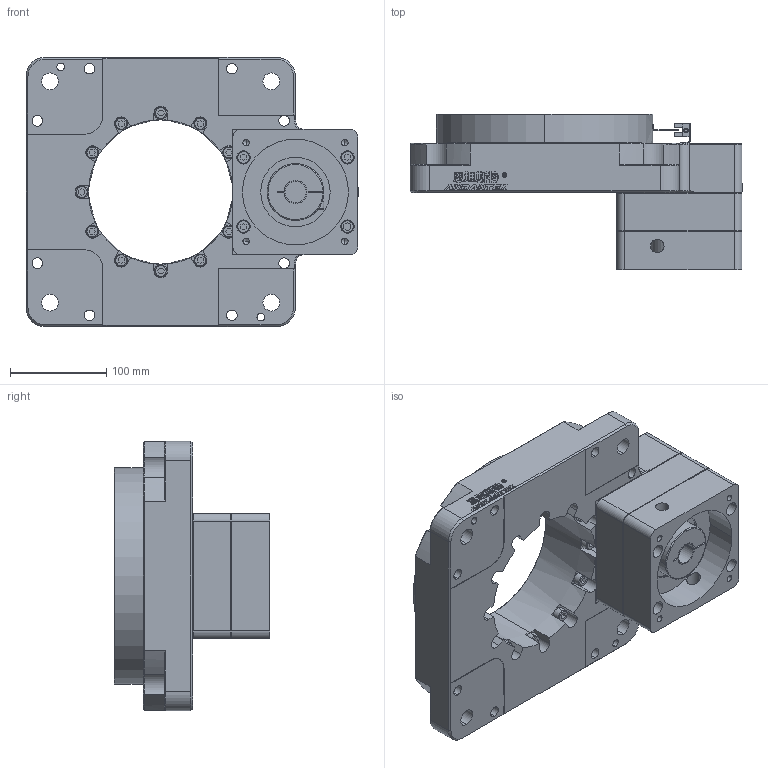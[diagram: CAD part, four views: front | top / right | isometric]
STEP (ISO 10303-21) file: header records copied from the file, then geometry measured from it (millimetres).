
FILE_DESCRIPTION(('Open CASCADE Model'),'2;1');
FILE_NAME('Open CASCADE Shape Model','2026-10-11T02:48:04',('Author'),( 'Open CASCADE'),'Open CASCADE STEP processor 7.8','Open CASCADE 7.8' ,'Unknown');
FILE_SCHEMA(('AUTOMOTIVE_DESIGN { 1 0 10303 214 1 1 1 1 }'));
Length unit declared in the file: millimetre
Products named in the file (3): NT280-10(配伺服1500W 输入22-62 110-9 4-M8-145); NT280-10(配伺服1500W 输入22-62 110-9 4-M8-145)-01; NT280-10(配伺服1500W 输入22-62 110-9 4-M8-145)-02
Assembly tree (2 placements, depth 2):
  NT280-10(配伺服1500W 输入22-62 110-9 4-M8-145)
    NT280-10(配伺服1500W 输入22-62 110-9 4-M8-145)-01
    NT280-10(配伺服1500W 输入22-62 110-9 4-M8-145)-02
Bounding box: 345 x 161.5 x 280 mm (x, y, z)
Volume: 4805517.9 mm3; surface area: 457160.3 mm2
Topology: 8 solids, 9 shells, 1335 faces, 3562 edges, 2310 vertices
Faces by surface type: plane 958, cylinder 252, cone 108, bspline 15, torus 2
Entity records: 90963 total; most frequent: CARTESIAN_POINT 22357, DIRECTION 12087, LINE 8060, VECTOR 8060, ORIENTED_EDGE 7044, PCURVE 7044, DEFINITIONAL_REPRESENTATION 7044, EDGE_CURVE 3522
